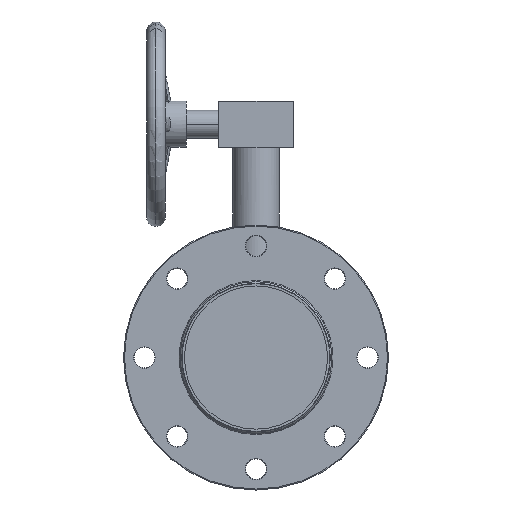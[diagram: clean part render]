
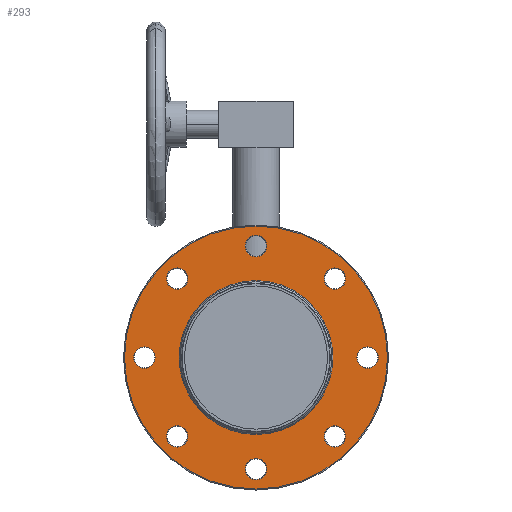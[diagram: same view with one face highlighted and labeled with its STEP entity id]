
A CAD part, front view. The second image highlights one B-rep face of the part: STEP entity #293.
In plain terms, the highlighted planar face has unit normal (0, -1, 0).
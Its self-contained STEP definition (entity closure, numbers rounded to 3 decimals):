
#207=PLANE('',#2194);
#293=ADVANCED_FACE('',(#501,#502,#503,#504,#505,#506,#507,#508,#509,#510),
#207,.T.);
#501=FACE_BOUND('',#795,.T.);
#502=FACE_BOUND('',#796,.T.);
#503=FACE_BOUND('',#797,.T.);
#504=FACE_BOUND('',#798,.T.);
#505=FACE_BOUND('',#799,.T.);
#506=FACE_BOUND('',#800,.T.);
#507=FACE_BOUND('',#801,.T.);
#508=FACE_BOUND('',#802,.T.);
#509=FACE_BOUND('',#803,.T.);
#510=FACE_BOUND('',#804,.T.);
#795=EDGE_LOOP('',(#1391));
#796=EDGE_LOOP('',(#1392));
#797=EDGE_LOOP('',(#1393));
#798=EDGE_LOOP('',(#1394));
#799=EDGE_LOOP('',(#1395));
#800=EDGE_LOOP('',(#1396));
#801=EDGE_LOOP('',(#1397));
#802=EDGE_LOOP('',(#1398));
#803=EDGE_LOOP('',(#1399));
#804=EDGE_LOOP('',(#1400));
#1063=CIRCLE('',#2183,79.5);
#1064=CIRCLE('',#2185,11.5);
#1065=CIRCLE('',#2186,11.5);
#1066=CIRCLE('',#2187,11.5);
#1067=CIRCLE('',#2188,11.5);
#1068=CIRCLE('',#2189,11.5);
#1069=CIRCLE('',#2190,11.5);
#1070=CIRCLE('',#2191,11.5);
#1071=CIRCLE('',#2192,11.5);
#1072=CIRCLE('',#2193,141.5);
#1391=ORIENTED_EDGE('',*,*,#1912,.T.);
#1392=ORIENTED_EDGE('',*,*,#1913,.T.);
#1393=ORIENTED_EDGE('',*,*,#1914,.T.);
#1394=ORIENTED_EDGE('',*,*,#1915,.T.);
#1395=ORIENTED_EDGE('',*,*,#1916,.T.);
#1396=ORIENTED_EDGE('',*,*,#1917,.T.);
#1397=ORIENTED_EDGE('',*,*,#1918,.T.);
#1398=ORIENTED_EDGE('',*,*,#1919,.T.);
#1399=ORIENTED_EDGE('',*,*,#1920,.T.);
#1400=ORIENTED_EDGE('',*,*,#1911,.F.);
#1691=VERTEX_POINT('',#3611);
#1692=VERTEX_POINT('',#3614);
#1693=VERTEX_POINT('',#3616);
#1694=VERTEX_POINT('',#3618);
#1695=VERTEX_POINT('',#3620);
#1696=VERTEX_POINT('',#3622);
#1697=VERTEX_POINT('',#3624);
#1698=VERTEX_POINT('',#3626);
#1699=VERTEX_POINT('',#3628);
#1700=VERTEX_POINT('',#3630);
#1911=EDGE_CURVE('',#1691,#1691,#1063,.T.);
#1912=EDGE_CURVE('',#1692,#1692,#1064,.T.);
#1913=EDGE_CURVE('',#1693,#1693,#1065,.T.);
#1914=EDGE_CURVE('',#1694,#1694,#1066,.T.);
#1915=EDGE_CURVE('',#1695,#1695,#1067,.T.);
#1916=EDGE_CURVE('',#1696,#1696,#1068,.T.);
#1917=EDGE_CURVE('',#1697,#1697,#1069,.T.);
#1918=EDGE_CURVE('',#1698,#1698,#1070,.T.);
#1919=EDGE_CURVE('',#1699,#1699,#1071,.T.);
#1920=EDGE_CURVE('',#1700,#1700,#1072,.T.);
#2183=AXIS2_PLACEMENT_3D('',#3610,#2614,#2615);
#2185=AXIS2_PLACEMENT_3D('',#3613,#2618,#2619);
#2186=AXIS2_PLACEMENT_3D('',#3615,#2620,#2621);
#2187=AXIS2_PLACEMENT_3D('',#3617,#2622,#2623);
#2188=AXIS2_PLACEMENT_3D('',#3619,#2624,#2625);
#2189=AXIS2_PLACEMENT_3D('',#3621,#2626,#2627);
#2190=AXIS2_PLACEMENT_3D('',#3623,#2628,#2629);
#2191=AXIS2_PLACEMENT_3D('',#3625,#2630,#2631);
#2192=AXIS2_PLACEMENT_3D('',#3627,#2632,#2633);
#2193=AXIS2_PLACEMENT_3D('',#3629,#2634,#2635);
#2194=AXIS2_PLACEMENT_3D('',#3631,#2636,#2637);
#2614=DIRECTION('',(0.,-1.,0.));
#2615=DIRECTION('',(0.,0.,-1.));
#2618=DIRECTION('',(0.,1.,0.));
#2619=DIRECTION('',(0.,0.,-1.));
#2620=DIRECTION('',(0.,1.,0.));
#2621=DIRECTION('',(0.,0.,-1.));
#2622=DIRECTION('',(0.,1.,0.));
#2623=DIRECTION('',(0.,0.,-1.));
#2624=DIRECTION('',(0.,1.,0.));
#2625=DIRECTION('',(0.,0.,-1.));
#2626=DIRECTION('',(0.,1.,0.));
#2627=DIRECTION('',(0.,0.,-1.));
#2628=DIRECTION('',(0.,1.,0.));
#2629=DIRECTION('',(0.,0.,-1.));
#2630=DIRECTION('',(0.,1.,0.));
#2631=DIRECTION('',(0.,0.,-1.));
#2632=DIRECTION('',(0.,1.,0.));
#2633=DIRECTION('',(0.,0.,-1.));
#2634=DIRECTION('',(0.,-1.,0.));
#2635=DIRECTION('',(0.,0.,-1.));
#2636=DIRECTION('',(0.,-1.,0.));
#2637=DIRECTION('',(0.,0.,-1.));
#3610=CARTESIAN_POINT('',(0.,-19.,0.));
#3611=CARTESIAN_POINT('',(0.,-19.,-79.5));
#3613=CARTESIAN_POINT('',(84.853,-19.,-84.853));
#3614=CARTESIAN_POINT('',(84.853,-19.,-96.353));
#3615=CARTESIAN_POINT('',(120.,-19.,0.));
#3616=CARTESIAN_POINT('',(120.,-19.,-11.5));
#3617=CARTESIAN_POINT('',(0.,-19.,120.));
#3618=CARTESIAN_POINT('',(0.,-19.,108.5));
#3619=CARTESIAN_POINT('',(0.,-19.,-120.));
#3620=CARTESIAN_POINT('',(0.,-19.,-131.5));
#3621=CARTESIAN_POINT('',(-84.853,-19.,-84.853));
#3622=CARTESIAN_POINT('',(-84.853,-19.,-96.353));
#3623=CARTESIAN_POINT('',(-120.,-19.,0.));
#3624=CARTESIAN_POINT('',(-120.,-19.,-11.5));
#3625=CARTESIAN_POINT('',(-84.853,-19.,84.853));
#3626=CARTESIAN_POINT('',(-84.853,-19.,73.353));
#3627=CARTESIAN_POINT('',(84.853,-19.,84.853));
#3628=CARTESIAN_POINT('',(84.853,-19.,73.353));
#3629=CARTESIAN_POINT('',(0.,-19.,0.));
#3630=CARTESIAN_POINT('',(0.,-19.,-141.5));
#3631=CARTESIAN_POINT('',(79.5,-19.,0.));
